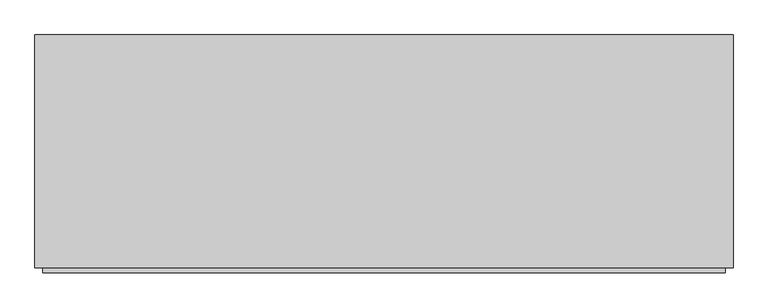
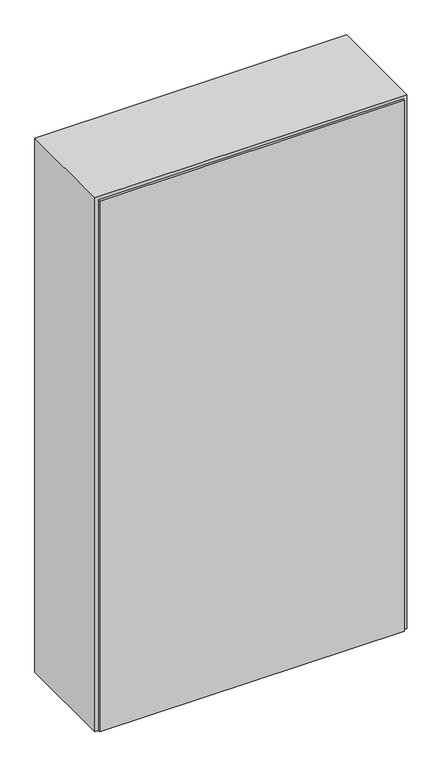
"""IFC4 building model written with IfcOpenShell, lengths in millimetres: proxy geometry."""

from ifc_helpers import new_model, si_unit, origin, place, context, project, spatial, faceted_brep, source, transform, mapped, element, save


def generic_models_df48616a(model_context):
    return source(origin(), model_context, "Body", "Brep", [
        faceted_brep([(1780.0, 0.0, 3240.0), (20.0, 0.0, 3240.0), (20.0, 0.0, 0.0), (1780.0, 0.0, 0.0), (1780.0, 13.0, 0.0), (1780.0, 13.0, 3240.0), (20.0, 13.0, 0.0), (0.0, 13.0, 0.0), (0.0, 613.0, 0.0), (1800.0, 613.0, 0.0), (1800.0, 13.0, 0.0), (20.0, 13.0, 3240.0), (0.0, 613.0, 3260.0), (1800.0, 613.0, 3260.0), (0.0, 13.0, 3260.0), (1800.0, 13.0, 3260.0)], [[[0, 1, 2, 3]], [[3, 4, 5, 0]], [[2, 6, 7, 8, 9, 10, 4, 3]], [[1, 11, 6, 2]], [[0, 5, 11, 1]], [[12, 13, 9, 8]], [[14, 7, 6, 11, 5, 4, 10, 15]], [[8, 7, 14, 12]], [[13, 15, 10, 9]], [[12, 14, 15, 13]]]),
    ])


if __name__ == "__main__":
    model = new_model("IFC4")
    model_context = context("Model", 3, world=origin())
    ifc_project = project(units=[si_unit("LENGTHUNIT", "METRE", prefix="MILLI")], contexts=[model_context])
    site = spatial("IfcSite", under=ifc_project)
    building = spatial("IfcBuilding", under=site)
    placement = place(None, origin())
    generic_models_shape = generic_models_df48616a(model_context)
    element("IfcBuildingElementProxy", 1, Name="Generic Models", at=placement, inside=building, context=model_context, shape_type="MappedRepresentation", body=[
        mapped(generic_models_shape, transform((0.0, 0.0, 0.0), x_axis=(1.0, 0.0, 0.0), y_axis=(0.0, 1.0, 0.0), z_axis=(0.0, 0.0, 1.0))),
    ])
    save(model, "model.ifc")
